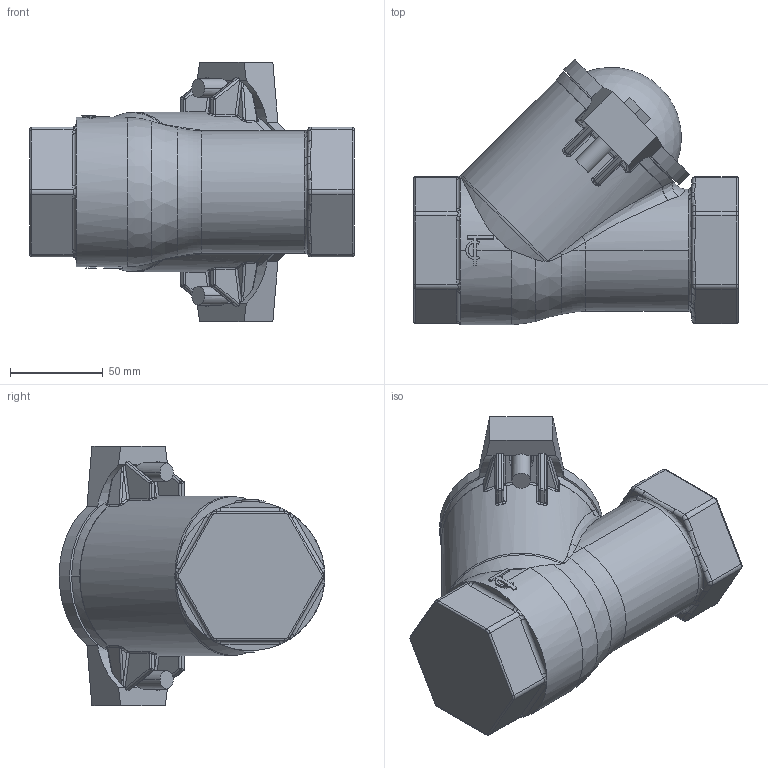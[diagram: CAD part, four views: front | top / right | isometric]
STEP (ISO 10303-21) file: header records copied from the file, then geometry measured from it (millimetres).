
FILE_DESCRIPTION (( 'STEP AP203' ), '1' );
FILE_NAME ('DN50.STEP', '2010-05-14T08:07:39', ( 'farex' ), ( '' ), 'SwSTEP 2.0', 'SolidWorks 2009', '' );
FILE_SCHEMA (( 'CONFIG_CONTROL_DESIGN' ));
Length unit declared in the file: millimetre
Products named in the file (1): DN50
Bounding box: 175 x 143.38 x 140 mm (x, y, z)
Volume: 1177026.5 mm3; surface area: 82408.1 mm2
Topology: 1 solids, 1 shells, 462 faces, 1195 edges, 730 vertices
Faces by surface type: bspline 140, cylinder 124, plane 124, torus 41, sphere 28, cone 5
Entity records: 19546 total; most frequent: CARTESIAN_POINT 9348, ORIENTED_EDGE 2370, DIRECTION 1834, EDGE_CURVE 1185, AXIS2_PLACEMENT_3D 744, VERTEX_POINT 726, EDGE_LOOP 471, ADVANCED_FACE 462
